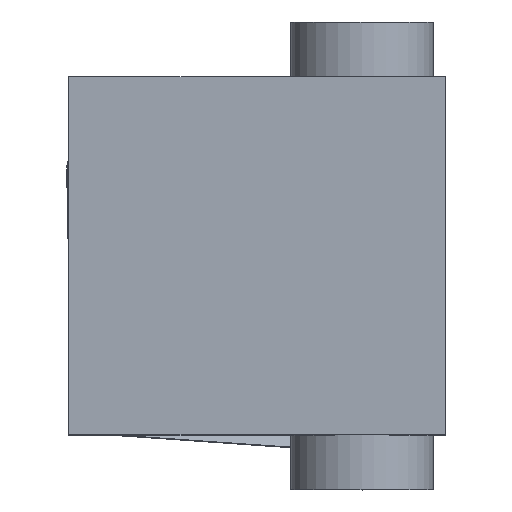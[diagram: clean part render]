
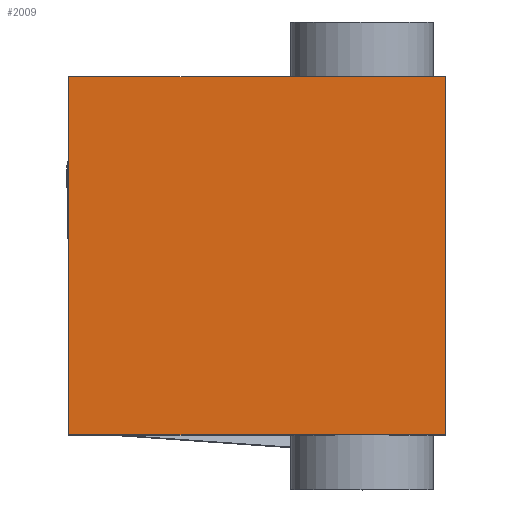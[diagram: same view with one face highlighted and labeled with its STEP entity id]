
A CAD part, top view. The second image highlights one B-rep face of the part: STEP entity #2009.
In plain terms, the highlighted planar face has unit normal (0, 0, 1).
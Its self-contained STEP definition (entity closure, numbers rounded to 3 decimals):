
#140=PLANE('',#2256);
#250=FACE_OUTER_BOUND('',#371,.T.);
#371=EDGE_LOOP('',(#1774,#1775,#1776,#1777));
#500=LINE('',#3679,#634);
#503=LINE('',#3685,#637);
#504=LINE('',#3686,#638);
#505=LINE('',#3687,#639);
#634=VECTOR('',#2796,10.);
#637=VECTOR('',#2801,10.);
#638=VECTOR('',#2802,10.);
#639=VECTOR('',#2803,10.);
#944=VERTEX_POINT('',#3677);
#945=VERTEX_POINT('',#3678);
#946=VERTEX_POINT('',#3683);
#947=VERTEX_POINT('',#3684);
#1226=EDGE_CURVE('',#944,#945,#500,.T.);
#1229=EDGE_CURVE('',#946,#947,#503,.T.);
#1230=EDGE_CURVE('',#945,#947,#504,.T.);
#1231=EDGE_CURVE('',#946,#944,#505,.T.);
#1774=ORIENTED_EDGE('',*,*,#1229,.T.);
#1775=ORIENTED_EDGE('',*,*,#1230,.F.);
#1776=ORIENTED_EDGE('',*,*,#1226,.F.);
#1777=ORIENTED_EDGE('',*,*,#1231,.F.);
#2009=ADVANCED_FACE('',(#250),#140,.T.);
#2256=AXIS2_PLACEMENT_3D('',#3682,#2799,#2800);
#2796=DIRECTION('',(0.,1.,0.));
#2799=DIRECTION('center_axis',(0.,0.,1.));
#2800=DIRECTION('ref_axis',(1.,0.,0.));
#2801=DIRECTION('',(0.,1.,0.));
#2802=DIRECTION('',(1.,0.,0.));
#2803=DIRECTION('',(-1.,0.,0.));
#3677=CARTESIAN_POINT('',(-165.,-157.,81.5));
#3678=CARTESIAN_POINT('',(-165.,157.,81.5));
#3679=CARTESIAN_POINT('',(-165.,0.,81.5));
#3682=CARTESIAN_POINT('Origin',(-165.,0.,81.5));
#3683=CARTESIAN_POINT('',(165.,-157.,81.5));
#3684=CARTESIAN_POINT('',(165.,157.,81.5));
#3685=CARTESIAN_POINT('',(165.,0.,81.5));
#3686=CARTESIAN_POINT('',(-165.,157.,81.5));
#3687=CARTESIAN_POINT('',(-165.,-157.,81.5));
